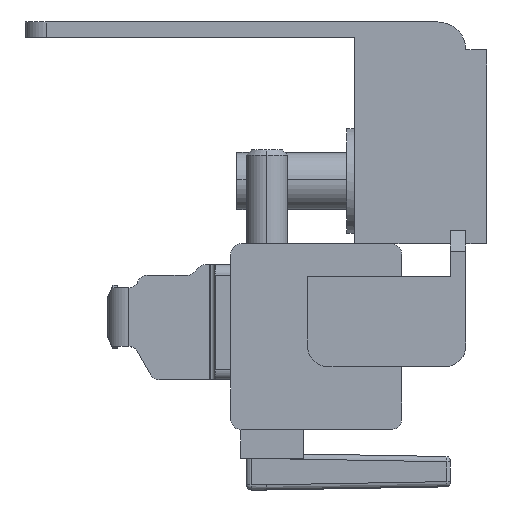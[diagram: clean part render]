
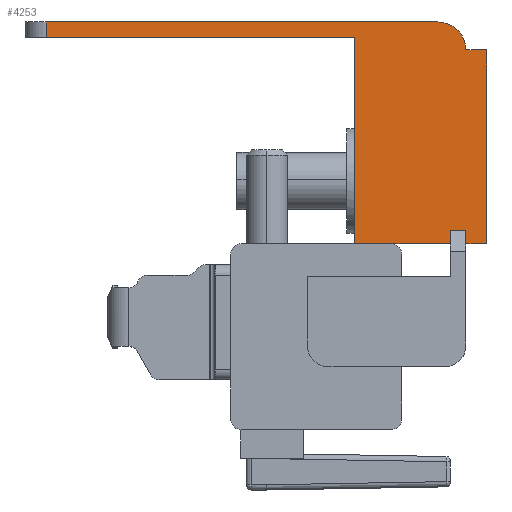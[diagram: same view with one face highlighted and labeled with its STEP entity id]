
A CAD part, left-side view. The second image highlights one B-rep face of the part: STEP entity #4253.
In plain terms, the highlighted planar face has unit normal (-1, 0, 0).
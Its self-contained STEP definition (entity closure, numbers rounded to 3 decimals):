
#4 = CARTESIAN_POINT ( 'NONE',  ( -218.1, -25.663, 19.549 ) ) ;
#76 = CIRCLE ( 'NONE', #4763, 2.67 ) ;
#202 = LINE ( 'NONE', #2995, #2180 ) ;
#266 = CARTESIAN_POINT ( 'NONE',  ( -218.1, -26.863, -1.651 ) ) ;
#309 = VERTEX_POINT ( 'NONE', #408 ) ;
#345 = ORIENTED_EDGE ( 'NONE', *, *, #4069, .F. ) ;
#364 = CARTESIAN_POINT ( 'NONE',  ( -218.1, -25.663, 16.879 ) ) ;
#401 = VECTOR ( 'NONE', #2210, 1000. ) ;
#408 = CARTESIAN_POINT ( 'NONE',  ( -218.1, -26.863, -0.361 ) ) ;
#459 = LINE ( 'NONE', #2630, #4707 ) ;
#494 = ORIENTED_EDGE ( 'NONE', *, *, #3072, .T. ) ;
#506 = EDGE_CURVE ( 'NONE', #2839, #894, #1386, .T. ) ;
#530 = DIRECTION ( 'NONE',  ( 0., 0., -1. ) ) ;
#540 = EDGE_CURVE ( 'NONE', #309, #5280, #4774, .T. ) ;
#587 = CARTESIAN_POINT ( 'NONE',  ( -218.1, -26.863, -0.361 ) ) ;
#602 = VECTOR ( 'NONE', #1477, 1000. ) ;
#624 = CARTESIAN_POINT ( 'NONE',  ( -218.1, -17.713, 18.079 ) ) ;
#677 = LINE ( 'NONE', #1254, #5038 ) ;
#739 = VECTOR ( 'NONE', #2761, 1000. ) ;
#785 = DIRECTION ( 'NONE',  ( 0., 0., -1. ) ) ;
#888 = CARTESIAN_POINT ( 'NONE',  ( -218.1, -28.333, 16.879 ) ) ;
#894 = VERTEX_POINT ( 'NONE', #1021 ) ;
#1021 = CARTESIAN_POINT ( 'NONE',  ( -218.1, 11.767, 18.079 ) ) ;
#1022 = DIRECTION ( 'NONE',  ( 0., 1., 0. ) ) ;
#1054 = PLANE ( 'NONE',  #2277 ) ;
#1105 = VECTOR ( 'NONE', #4962, 1000. ) ;
#1254 = CARTESIAN_POINT ( 'NONE',  ( -218.1, 11.767, 17.779 ) ) ;
#1255 = CARTESIAN_POINT ( 'NONE',  ( -218.1, -29.063, 18.079 ) ) ;
#1386 = LINE ( 'NONE', #1255, #3649 ) ;
#1420 = ORIENTED_EDGE ( 'NONE', *, *, #1441, .F. ) ;
#1441 = EDGE_CURVE ( 'NONE', #5453, #3463, #459, .T. ) ;
#1448 = VERTEX_POINT ( 'NONE', #2260 ) ;
#1477 = DIRECTION ( 'NONE',  ( 0., 0., 1. ) ) ;
#1535 = LINE ( 'NONE', #4328, #401 ) ;
#1543 = CARTESIAN_POINT ( 'NONE',  ( -218.1, -28.333, -1.651 ) ) ;
#1573 = EDGE_CURVE ( 'NONE', #1901, #5280, #202, .T. ) ;
#1587 = CARTESIAN_POINT ( 'NONE',  ( -218.1, -30.333, -1.651 ) ) ;
#1592 = FACE_OUTER_BOUND ( 'NONE', #2207, .T. ) ;
#1621 = CARTESIAN_POINT ( 'NONE',  ( -218.1, -30.333, 16.879 ) ) ;
#1766 = CARTESIAN_POINT ( 'NONE',  ( -218.1, -17.713, -1.651 ) ) ;
#1850 = DIRECTION ( 'NONE',  ( 0., 1., 0. ) ) ;
#1867 = LINE ( 'NONE', #4441, #602 ) ;
#1901 = VERTEX_POINT ( 'NONE', #1766 ) ;
#1933 = EDGE_CURVE ( 'NONE', #3317, #2322, #2563, .T. ) ;
#2156 = ORIENTED_EDGE ( 'NONE', *, *, #2843, .F. ) ;
#2180 = VECTOR ( 'NONE', #3032, 1000. ) ;
#2207 = EDGE_LOOP ( 'NONE', ( #4068, #2797, #2690, #3315, #1420, #3486, #2156, #5192, #5099, #345, #494, #3380 ) ) ;
#2210 = DIRECTION ( 'NONE',  ( 0., -1., 0. ) ) ;
#2260 = CARTESIAN_POINT ( 'NONE',  ( -218.1, 11.767, 19.549 ) ) ;
#2277 = AXIS2_PLACEMENT_3D ( 'NONE', #4884, #2333, #5303 ) ;
#2322 = VERTEX_POINT ( 'NONE', #888 ) ;
#2333 = DIRECTION ( 'NONE',  ( 1., 0., 0. ) ) ;
#2493 = DIRECTION ( 'NONE',  ( 0., 1., 0. ) ) ;
#2500 = VECTOR ( 'NONE', #530, 1000. ) ;
#2528 = DIRECTION ( 'NONE',  ( 0., 0., -1. ) ) ;
#2563 = LINE ( 'NONE', #1621, #3580 ) ;
#2630 = CARTESIAN_POINT ( 'NONE',  ( -218.1, -28.333, -1.651 ) ) ;
#2690 = ORIENTED_EDGE ( 'NONE', *, *, #540, .F. ) ;
#2761 = DIRECTION ( 'NONE',  ( 0., 0., -1. ) ) ;
#2785 = CARTESIAN_POINT ( 'NONE',  ( -218.1, -30.333, 16.879 ) ) ;
#2797 = ORIENTED_EDGE ( 'NONE', *, *, #1573, .T. ) ;
#2839 = VERTEX_POINT ( 'NONE', #624 ) ;
#2843 = EDGE_CURVE ( 'NONE', #3317, #4919, #5260, .T. ) ;
#2995 = CARTESIAN_POINT ( 'NONE',  ( -218.1, -17.713, -1.651 ) ) ;
#3032 = DIRECTION ( 'NONE',  ( 0., -1., 0. ) ) ;
#3072 = EDGE_CURVE ( 'NONE', #1448, #894, #677, .T. ) ;
#3305 = DIRECTION ( 'NONE',  ( -1., 0., 0. ) ) ;
#3315 = ORIENTED_EDGE ( 'NONE', *, *, #4203, .F. ) ;
#3317 = VERTEX_POINT ( 'NONE', #2785 ) ;
#3380 = ORIENTED_EDGE ( 'NONE', *, *, #506, .F. ) ;
#3453 = EDGE_CURVE ( 'NONE', #2322, #3631, #76, .T. ) ;
#3463 = VERTEX_POINT ( 'NONE', #4585 ) ;
#3486 = ORIENTED_EDGE ( 'NONE', *, *, #4695, .F. ) ;
#3580 = VECTOR ( 'NONE', #1850, 1000. ) ;
#3589 = CARTESIAN_POINT ( 'NONE',  ( -218.1, -30.333, 16.879 ) ) ;
#3631 = VERTEX_POINT ( 'NONE', #4 ) ;
#3649 = VECTOR ( 'NONE', #2493, 1000. ) ;
#4068 = ORIENTED_EDGE ( 'NONE', *, *, #4236, .F. ) ;
#4069 = EDGE_CURVE ( 'NONE', #1448, #3631, #1535, .T. ) ;
#4123 = VECTOR ( 'NONE', #1022, 1000. ) ;
#4203 = EDGE_CURVE ( 'NONE', #3463, #309, #5243, .T. ) ;
#4236 = EDGE_CURVE ( 'NONE', #1901, #2839, #1867, .T. ) ;
#4253 = ADVANCED_FACE ( 'NONE', ( #1592 ), #1054, .F. ) ;
#4328 = CARTESIAN_POINT ( 'NONE',  ( -218.1, 14.667, 19.549 ) ) ;
#4368 = LINE ( 'NONE', #1587, #1105 ) ;
#4441 = CARTESIAN_POINT ( 'NONE',  ( -218.1, -17.713, -1.651 ) ) ;
#4585 = CARTESIAN_POINT ( 'NONE',  ( -218.1, -28.333, -0.361 ) ) ;
#4675 = DIRECTION ( 'NONE',  ( 0., 0., 1. ) ) ;
#4695 = EDGE_CURVE ( 'NONE', #4919, #5453, #4368, .T. ) ;
#4707 = VECTOR ( 'NONE', #4675, 1000. ) ;
#4737 = CARTESIAN_POINT ( 'NONE',  ( -218.1, -30.333, -1.651 ) ) ;
#4763 = AXIS2_PLACEMENT_3D ( 'NONE', #364, #3305, #785 ) ;
#4774 = LINE ( 'NONE', #266, #2500 ) ;
#4850 = CARTESIAN_POINT ( 'NONE',  ( -218.1, -26.863, -1.651 ) ) ;
#4884 = CARTESIAN_POINT ( 'NONE',  ( -218.1, -29.063, 15.779 ) ) ;
#4919 = VERTEX_POINT ( 'NONE', #4737 ) ;
#4962 = DIRECTION ( 'NONE',  ( 0., 1., 0. ) ) ;
#5038 = VECTOR ( 'NONE', #2528, 1000. ) ;
#5099 = ORIENTED_EDGE ( 'NONE', *, *, #3453, .T. ) ;
#5192 = ORIENTED_EDGE ( 'NONE', *, *, #1933, .T. ) ;
#5243 = LINE ( 'NONE', #587, #4123 ) ;
#5260 = LINE ( 'NONE', #3589, #739 ) ;
#5280 = VERTEX_POINT ( 'NONE', #4850 ) ;
#5303 = DIRECTION ( 'NONE',  ( 0., 1., 0. ) ) ;
#5453 = VERTEX_POINT ( 'NONE', #1543 ) ;
